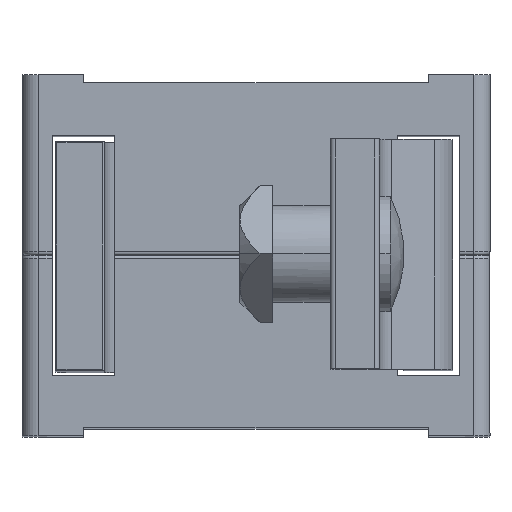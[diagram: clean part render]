
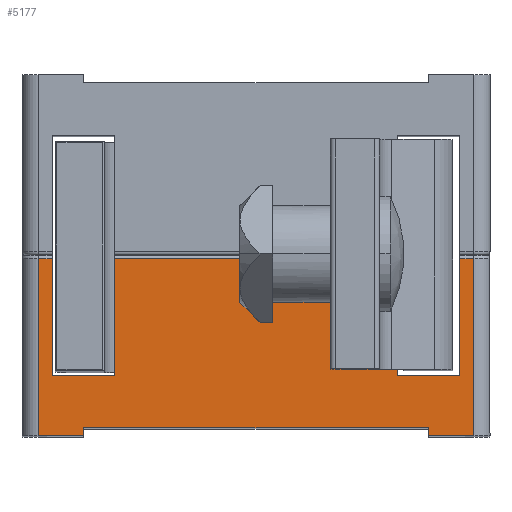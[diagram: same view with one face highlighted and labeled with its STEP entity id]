
A CAD part, top view. The second image highlights one B-rep face of the part: STEP entity #5177.
In plain terms, the highlighted planar face has unit normal (0, 0, 1).
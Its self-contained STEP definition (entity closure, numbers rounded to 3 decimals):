
#105 = CARTESIAN_POINT ( 'NONE',  ( 526.817, 301.027, -131.286 ) ) ;
#106 = DIRECTION ( 'NONE',  ( 0., 1., 0. ) ) ;
#107 = VECTOR ( 'NONE', #106, 1000. ) ;
#108 = CARTESIAN_POINT ( 'NONE',  ( 526.817, 300.777, -131.286 ) ) ;
#109 = LINE ( 'NONE', #108, #107 ) ;
#110 = CARTESIAN_POINT ( 'NONE',  ( 526.817, 300.527, -131.286 ) ) ;
#330 = CARTESIAN_POINT ( 'NONE',  ( 529.567, 300.527, -131.286 ) ) ;
#331 = DIRECTION ( 'NONE',  ( 0., 1., 0. ) ) ;
#332 = VECTOR ( 'NONE', #331, 1000. ) ;
#333 = CARTESIAN_POINT ( 'NONE',  ( 529.567, 300.527, -131.286 ) ) ;
#334 = LINE ( 'NONE', #333, #332 ) ;
#336 = CARTESIAN_POINT ( 'NONE',  ( 529.567, 311.327, -131.286 ) ) ;
#431 = CARTESIAN_POINT ( 'NONE',  ( 505.817, 300.527, -131.286 ) ) ;
#432 = DIRECTION ( 'NONE',  ( 0., -1., 0. ) ) ;
#433 = VECTOR ( 'NONE', #432, 1000. ) ;
#434 = CARTESIAN_POINT ( 'NONE',  ( 505.817, 300.777, -131.286 ) ) ;
#435 = LINE ( 'NONE', #434, #433 ) ;
#539 = CARTESIAN_POINT ( 'NONE',  ( 528.716, 304.227, -131.286 ) ) ;
#540 = CARTESIAN_POINT ( 'NONE',  ( 524.916, 304.227, -131.286 ) ) ;
#541 = DIRECTION ( 'NONE',  ( -1., 0., 0. ) ) ;
#542 = VECTOR ( 'NONE', #541, 1000. ) ;
#543 = CARTESIAN_POINT ( 'NONE',  ( 529.567, 304.227, -131.286 ) ) ;
#544 = LINE ( 'NONE', #543, #542 ) ;
#573 = DIRECTION ( 'NONE',  ( -1., 0., 0. ) ) ;
#574 = VECTOR ( 'NONE', #573, 1000. ) ;
#575 = CARTESIAN_POINT ( 'NONE',  ( 529.567, 311.327, -131.286 ) ) ;
#576 = LINE ( 'NONE', #575, #574 ) ;
#578 = CARTESIAN_POINT ( 'NONE',  ( 528.716, 311.327, -131.286 ) ) ;
#717 = CARTESIAN_POINT ( 'NONE',  ( 505.817, 301.027, -131.286 ) ) ;
#795 = DIRECTION ( 'NONE',  ( 0., -1., 0. ) ) ;
#796 = VECTOR ( 'NONE', #795, 1000. ) ;
#797 = CARTESIAN_POINT ( 'NONE',  ( 503.917, 311.527, -131.286 ) ) ;
#798 = LINE ( 'NONE', #797, #796 ) ;
#799 = CARTESIAN_POINT ( 'NONE',  ( 503.917, 304.227, -131.286 ) ) ;
#800 = DIRECTION ( 'NONE',  ( -1., 0., 0. ) ) ;
#801 = VECTOR ( 'NONE', #800, 1000. ) ;
#802 = CARTESIAN_POINT ( 'NONE',  ( 503.917, 304.227, -131.286 ) ) ;
#803 = LINE ( 'NONE', #802, #801 ) ;
#804 = DIRECTION ( 'NONE',  ( 0., -1., 0. ) ) ;
#805 = VECTOR ( 'NONE', #804, 1000. ) ;
#806 = CARTESIAN_POINT ( 'NONE',  ( 507.717, 318.827, -131.286 ) ) ;
#807 = LINE ( 'NONE', #806, #805 ) ;
#842 = CARTESIAN_POINT ( 'NONE',  ( 503.917, 311.327, -131.286 ) ) ;
#890 = DIRECTION ( 'NONE',  ( -1., 0., 0. ) ) ;
#891 = VECTOR ( 'NONE', #890, 1000. ) ;
#892 = CARTESIAN_POINT ( 'NONE',  ( 529.567, 311.327, -131.286 ) ) ;
#893 = LINE ( 'NONE', #892, #891 ) ;
#1007 = CARTESIAN_POINT ( 'NONE',  ( 503.067, 311.327, -131.286 ) ) ;
#1019 = DIRECTION ( 'NONE',  ( 1., 0., 0. ) ) ;
#1020 = VECTOR ( 'NONE', #1019, 1000. ) ;
#1021 = CARTESIAN_POINT ( 'NONE',  ( 529.567, 301.027, -131.286 ) ) ;
#1022 = LINE ( 'NONE', #1021, #1020 ) ;
#1092 = DIRECTION ( 'NONE',  ( 0., -1., 0. ) ) ;
#1093 = VECTOR ( 'NONE', #1092, 1000. ) ;
#1094 = CARTESIAN_POINT ( 'NONE',  ( 503.067, 300.527, -131.286 ) ) ;
#1095 = LINE ( 'NONE', #1094, #1093 ) ;
#1104 = CARTESIAN_POINT ( 'NONE',  ( 507.717, 304.227, -131.286 ) ) ;
#1105 = DIRECTION ( 'NONE',  ( 0., 1., 0. ) ) ;
#1106 = VECTOR ( 'NONE', #1105, 1000. ) ;
#1107 = CARTESIAN_POINT ( 'NONE',  ( 524.916, 318.827, -131.286 ) ) ;
#1108 = LINE ( 'NONE', #1107, #1106 ) ;
#1109 = DIRECTION ( 'NONE',  ( 0., 1., 0. ) ) ;
#1110 = VECTOR ( 'NONE', #1109, 1000. ) ;
#1111 = CARTESIAN_POINT ( 'NONE',  ( 528.716, 311.527, -131.286 ) ) ;
#1112 = LINE ( 'NONE', #1111, #1110 ) ;
#1161 = CARTESIAN_POINT ( 'NONE',  ( 503.067, 300.527, -131.286 ) ) ;
#1183 = DIRECTION ( 'NONE',  ( 1., 0., 0. ) ) ;
#1184 = VECTOR ( 'NONE', #1183, 1000. ) ;
#1185 = CARTESIAN_POINT ( 'NONE',  ( 529.567, 300.527, -131.286 ) ) ;
#1186 = LINE ( 'NONE', #1185, #1184 ) ;
#1187 = DIRECTION ( 'NONE',  ( 1., 0., 0. ) ) ;
#1188 = VECTOR ( 'NONE', #1187, 1000. ) ;
#1189 = CARTESIAN_POINT ( 'NONE',  ( 529.567, 300.527, -131.286 ) ) ;
#1190 = LINE ( 'NONE', #1189, #1188 ) ;
#1480 = DIRECTION ( 'NONE',  ( 0., -1., 0. ) ) ;
#1481 = DIRECTION ( 'NONE',  ( 0., 0., 1. ) ) ;
#1482 = CARTESIAN_POINT ( 'NONE',  ( 529.567, 300.527, -131.286 ) ) ;
#1483 = AXIS2_PLACEMENT_3D ( 'NONE', #1482, #1481, #1480 ) ;
#1484 = PLANE ( 'NONE',  #1483 ) ;
#1486 = FACE_OUTER_BOUND ( 'NONE', #4926, .T. ) ;
#1487 = DIRECTION ( 'NONE',  ( -1., 0., 0. ) ) ;
#1488 = VECTOR ( 'NONE', #1487, 1000. ) ;
#1489 = CARTESIAN_POINT ( 'NONE',  ( 529.567, 311.327, -131.286 ) ) ;
#1490 = LINE ( 'NONE', #1489, #1488 ) ;
#3153 = CARTESIAN_POINT ( 'NONE',  ( 524.916, 311.327, -131.286 ) ) ;
#3155 = CARTESIAN_POINT ( 'NONE',  ( 507.717, 311.327, -131.286 ) ) ;
#4237 = VERTEX_POINT ( 'NONE', #3155 ) ;
#4240 = VERTEX_POINT ( 'NONE', #3153 ) ;
#4410 = VERTEX_POINT ( 'NONE', #110 ) ;
#4412 = EDGE_CURVE ( 'NONE', #4410, #4413, #109, .T. ) ;
#4413 = VERTEX_POINT ( 'NONE', #105 ) ;
#4465 = EDGE_CURVE ( 'NONE', #4588, #4466, #435, .T. ) ;
#4466 = VERTEX_POINT ( 'NONE', #431 ) ;
#4503 = VERTEX_POINT ( 'NONE', #336 ) ;
#4506 = EDGE_CURVE ( 'NONE', #4507, #4503, #334, .T. ) ;
#4507 = VERTEX_POINT ( 'NONE', #330 ) ;
#4588 = VERTEX_POINT ( 'NONE', #717 ) ;
#4667 = VERTEX_POINT ( 'NONE', #578 ) ;
#4670 = EDGE_CURVE ( 'NONE', #4503, #4667, #576, .T. ) ;
#4682 = EDGE_CURVE ( 'NONE', #4683, #4684, #544, .T. ) ;
#4683 = VERTEX_POINT ( 'NONE', #539 ) ;
#4684 = VERTEX_POINT ( 'NONE', #540 ) ;
#4758 = EDGE_CURVE ( 'NONE', #4240, #4237, #893, .T. ) ;
#4793 = VERTEX_POINT ( 'NONE', #842 ) ;
#4811 = ORIENTED_EDGE ( 'NONE', *, *, #4812, .T. ) ;
#4812 = EDGE_CURVE ( 'NONE', #4237, #4942, #807, .T. ) ;
#4813 = ORIENTED_EDGE ( 'NONE', *, *, #4814, .T. ) ;
#4814 = EDGE_CURVE ( 'NONE', #4942, #4815, #803, .T. ) ;
#4815 = VERTEX_POINT ( 'NONE', #799 ) ;
#4816 = ORIENTED_EDGE ( 'NONE', *, *, #4817, .F. ) ;
#4817 = EDGE_CURVE ( 'NONE', #4793, #4815, #798, .T. ) ;
#4888 = EDGE_CURVE ( 'NONE', #4410, #4507, #1190, .T. ) ;
#4892 = EDGE_CURVE ( 'NONE', #4904, #4466, #1186, .T. ) ;
#4904 = VERTEX_POINT ( 'NONE', #1161 ) ;
#4926 = EDGE_LOOP ( 'NONE', ( #4927, #4928, #4929, #4930, #4931, #4932, #4933, #4934, #4935, #4936, #4938, #4939, #4941, #4811, #4813, #4816 ) ) ;
#4927 = ORIENTED_EDGE ( 'NONE', *, *, #5176, .T. ) ;
#4928 = ORIENTED_EDGE ( 'NONE', *, *, #4949, .T. ) ;
#4929 = ORIENTED_EDGE ( 'NONE', *, *, #4892, .T. ) ;
#4930 = ORIENTED_EDGE ( 'NONE', *, *, #4465, .F. ) ;
#4931 = ORIENTED_EDGE ( 'NONE', *, *, #4979, .T. ) ;
#4932 = ORIENTED_EDGE ( 'NONE', *, *, #4412, .F. ) ;
#4933 = ORIENTED_EDGE ( 'NONE', *, *, #4888, .T. ) ;
#4934 = ORIENTED_EDGE ( 'NONE', *, *, #4506, .T. ) ;
#4935 = ORIENTED_EDGE ( 'NONE', *, *, #4670, .T. ) ;
#4936 = ORIENTED_EDGE ( 'NONE', *, *, #4937, .F. ) ;
#4937 = EDGE_CURVE ( 'NONE', #4683, #4667, #1112, .T. ) ;
#4938 = ORIENTED_EDGE ( 'NONE', *, *, #4682, .T. ) ;
#4939 = ORIENTED_EDGE ( 'NONE', *, *, #4940, .T. ) ;
#4940 = EDGE_CURVE ( 'NONE', #4684, #4240, #1108, .T. ) ;
#4941 = ORIENTED_EDGE ( 'NONE', *, *, #4758, .T. ) ;
#4942 = VERTEX_POINT ( 'NONE', #1104 ) ;
#4949 = EDGE_CURVE ( 'NONE', #4985, #4904, #1095, .T. ) ;
#4979 = EDGE_CURVE ( 'NONE', #4588, #4413, #1022, .T. ) ;
#4985 = VERTEX_POINT ( 'NONE', #1007 ) ;
#5176 = EDGE_CURVE ( 'NONE', #4793, #4985, #1490, .T. ) ;
#5177 = ADVANCED_FACE ( 'NONE', ( #1486 ), #1484, .T. ) ;
